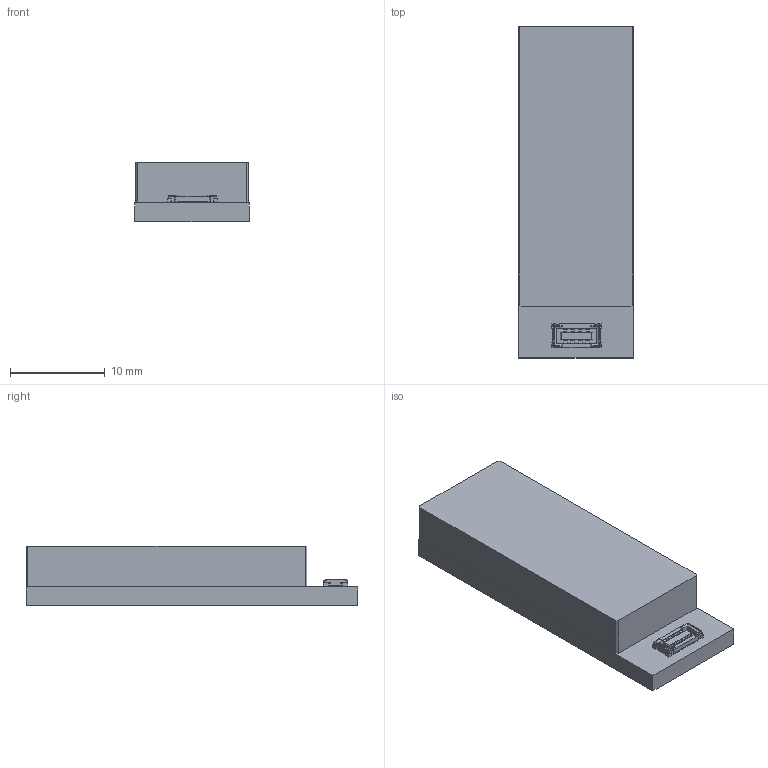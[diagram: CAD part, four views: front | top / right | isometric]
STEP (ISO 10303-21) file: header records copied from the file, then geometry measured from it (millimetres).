
FILE_DESCRIPTION(/* description */ (''),/* implementation_level */ '2;1');
FILE_NAME(/* name */ 'C:/Users/Integrated Optics/Desktop/Flash 4 .step',/* time_stamp */ '2020-05-07T10:56:44+03:00',/* author */ (''),/* organization */ (''),/* preprocessor_version */ 'ST-DEVELOPER v18.1',/* originating_system */ 'Autodesk Translation Framework v9.2.0.1227',/* authorisation */ '');
FILE_SCHEMA (('AUTOMOTIVE_DESIGN { 1 0 10303 214 3 1 1 }'));
Length unit declared in the file: millimetre
Products named in the file (5): Flash 4 ; Flash 4 base; Flash 4 lid; Flash 4 output window; Connector
Assembly tree (4 placements, depth 2):
  Flash 4 
    Flash 4 base
    Flash 4 lid
    Flash 4 output window
    Connector
Bounding box: 12.06 x 35.09 x 6.3 mm (x, y, z)
Volume: 2378.3 mm3; surface area: 2183.5 mm2
Topology: 4 solids, 4 shells, 429 faces, 1180 edges, 776 vertices
Faces by surface type: plane 345, cylinder 84
Entity records: 13669 total; most frequent: CARTESIAN_POINT 2394, ORIENTED_EDGE 2360, DIRECTION 2232, EDGE_CURVE 1180, LINE 1004, VECTOR 1004, VERTEX_POINT 776, AXIS2_PLACEMENT_3D 614
